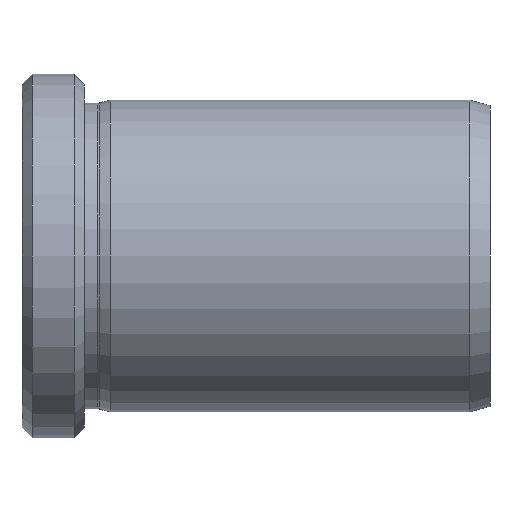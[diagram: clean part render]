
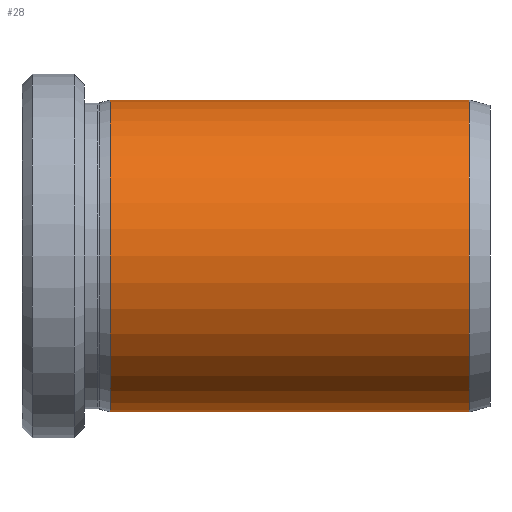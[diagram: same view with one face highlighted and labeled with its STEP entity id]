
A CAD part, front view. The second image highlights one B-rep face of the part: STEP entity #28.
In plain terms, the highlighted cylindrical face has radius 15 mm (diameter 30 mm), a partial arc.
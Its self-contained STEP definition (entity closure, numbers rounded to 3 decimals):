
#1 = DIRECTION ( 'NONE',  ( -1., 0., 0. ) ) ;
#7 = LINE ( 'NONE', #345, #514 ) ;
#12 = CARTESIAN_POINT ( 'NONE',  ( 53.8, 0., -15. ) ) ;
#28 = ADVANCED_FACE ( 'NONE', ( #451 ), #85, .T. ) ;
#53 = CIRCLE ( 'NONE', #614, 15. ) ;
#85 = CYLINDRICAL_SURFACE ( 'NONE', #112, 15. ) ;
#112 = AXIS2_PLACEMENT_3D ( 'NONE', #578, #170, #281 ) ;
#125 = CARTESIAN_POINT ( 'NONE',  ( 19.3, 0., -15. ) ) ;
#131 = AXIS2_PLACEMENT_3D ( 'NONE', #349, #334, #353 ) ;
#154 = EDGE_CURVE ( 'NONE', #396, #517, #565, .T. ) ;
#170 = DIRECTION ( 'NONE',  ( -1., 0., 0. ) ) ;
#173 = ORIENTED_EDGE ( 'NONE', *, *, #640, .F. ) ;
#179 = CARTESIAN_POINT ( 'NONE',  ( 19.3, 0., 0. ) ) ;
#198 = VECTOR ( 'NONE', #372, 1000. ) ;
#218 = VERTEX_POINT ( 'NONE', #12 ) ;
#222 = DIRECTION ( 'NONE',  ( -1., 0., 0. ) ) ;
#227 = DIRECTION ( 'NONE',  ( 0., 0., 1. ) ) ;
#281 = DIRECTION ( 'NONE',  ( 0., 0., 1. ) ) ;
#328 = CARTESIAN_POINT ( 'NONE',  ( 19.3, 0., 15. ) ) ;
#334 = DIRECTION ( 'NONE',  ( -1., 0., 0. ) ) ;
#345 = CARTESIAN_POINT ( 'NONE',  ( 0., 0., -15. ) ) ;
#349 = CARTESIAN_POINT ( 'NONE',  ( 53.8, 0., 0. ) ) ;
#353 = DIRECTION ( 'NONE',  ( 0., 0., 1. ) ) ;
#372 = DIRECTION ( 'NONE',  ( -1., 0., 0. ) ) ;
#378 = CARTESIAN_POINT ( 'NONE',  ( 53.8, 0., 15. ) ) ;
#396 = VERTEX_POINT ( 'NONE', #378 ) ;
#414 = ORIENTED_EDGE ( 'NONE', *, *, #566, .F. ) ;
#419 = EDGE_CURVE ( 'NONE', #218, #396, #609, .T. ) ;
#451 = FACE_OUTER_BOUND ( 'NONE', #461, .T. ) ;
#461 = EDGE_LOOP ( 'NONE', ( #173, #555, #632, #414 ) ) ;
#463 = CARTESIAN_POINT ( 'NONE',  ( 0., 0., 15. ) ) ;
#514 = VECTOR ( 'NONE', #1, 1000. ) ;
#517 = VERTEX_POINT ( 'NONE', #328 ) ;
#538 = VERTEX_POINT ( 'NONE', #125 ) ;
#555 = ORIENTED_EDGE ( 'NONE', *, *, #419, .T. ) ;
#565 = LINE ( 'NONE', #463, #198 ) ;
#566 = EDGE_CURVE ( 'NONE', #538, #517, #53, .T. ) ;
#578 = CARTESIAN_POINT ( 'NONE',  ( 0., 0., 0. ) ) ;
#609 = CIRCLE ( 'NONE', #131, 15. ) ;
#614 = AXIS2_PLACEMENT_3D ( 'NONE', #179, #222, #227 ) ;
#632 = ORIENTED_EDGE ( 'NONE', *, *, #154, .T. ) ;
#640 = EDGE_CURVE ( 'NONE', #218, #538, #7, .T. ) ;
